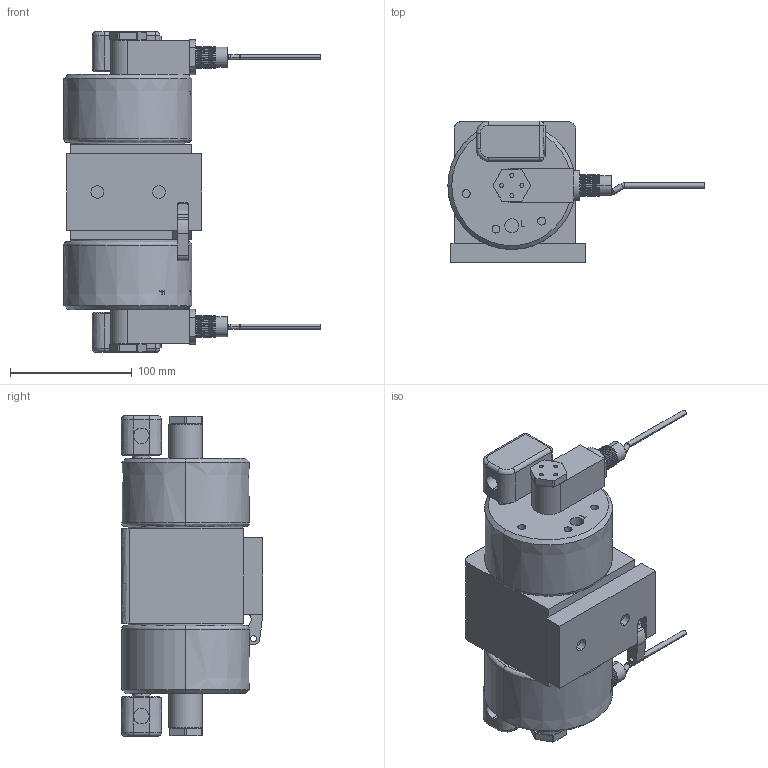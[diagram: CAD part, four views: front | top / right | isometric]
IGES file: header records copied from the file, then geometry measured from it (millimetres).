
Start section: SolidWorks IGES file using analytic representation for surfaces
Global section: file name: \\server\Users\Karen.Bodily\My Documents\PXA030_solid model.IGS; native system: SolidWorks 2012; preprocessor: SolidWorks 2012; author: karen.bodily; date: 130724.085522; units: inch
Bounding box: 210.53 x 116.15 x 263.49 mm (x, y, z)
Volume: 2082857.6 mm3; surface area: 151808.5 mm2
Topology: 1 solids, 1 shells, 1283 faces, 3193 edges, 2052 vertices
Faces by surface type: plane 755, revolution 415, bspline 113
